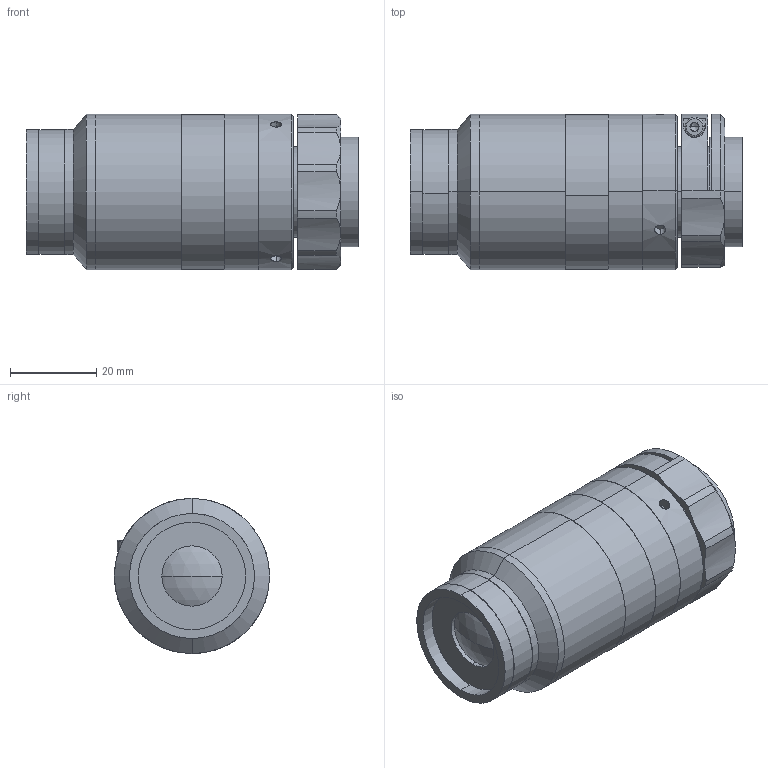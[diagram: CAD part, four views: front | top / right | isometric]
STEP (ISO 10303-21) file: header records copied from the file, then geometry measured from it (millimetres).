
FILE_DESCRIPTION (( 'STEP AP203' ), '1' );
FILE_NAME ('XF-MH08X78.STEP', '2020-08-24T07:07:01', ( 'canrill-02' ), ( '' ), 'SwSTEP 2.0', 'SolidWorks 2014', '' );
FILE_SCHEMA (( 'CONFIG_CONTROL_DESIGN' ));
Length unit declared in the file: millimetre
Products named in the file (1): XF-MH08X78
Bounding box: 77.02 x 36 x 36 mm (x, y, z)
Surface area: 15199.3 mm2 (no closed solid volume)
Topology: 0 solids, 13 shells, 107 faces, 284 edges, 194 vertices
Faces by surface type: cylinder 51, plane 37, cone 15, sphere 2, torus 2
Entity records: 3717 total; most frequent: CARTESIAN_POINT 905, DIRECTION 631, ORIENTED_EDGE 479, EDGE_CURVE 282, AXIS2_PLACEMENT_3D 264, VERTEX_POINT 194, CIRCLE 156, EDGE_LOOP 135
